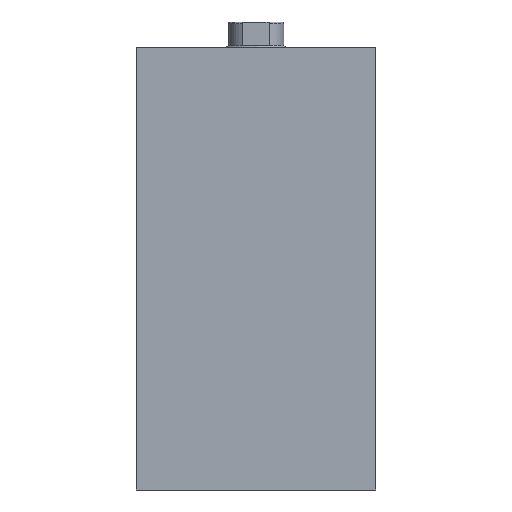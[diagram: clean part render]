
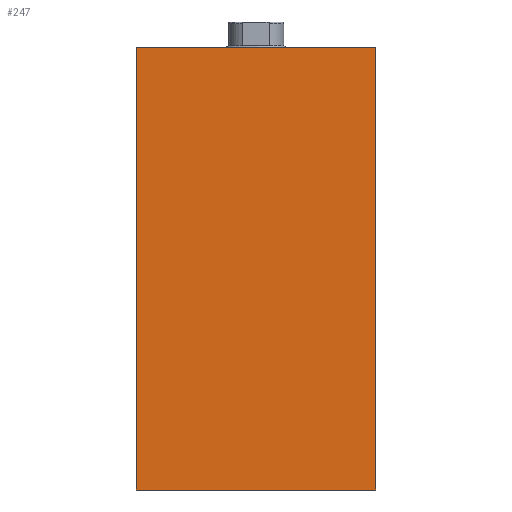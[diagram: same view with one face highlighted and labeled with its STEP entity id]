
A CAD part, left-side view. The second image highlights one B-rep face of the part: STEP entity #247.
In plain terms, the highlighted planar face has unit normal (-1, 0, 0) as drawn and (0, 0, -1) by its records, which use the part's own axes.
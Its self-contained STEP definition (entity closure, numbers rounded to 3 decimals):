
#247 = ADVANCED_FACE( '', ( #328 ), #329, .F. );
#328 = FACE_OUTER_BOUND( '', #524, .T. );
#329 = PLANE( '', #525 );
#524 = EDGE_LOOP( '', ( #739, #740, #741, #742 ) );
#525 = AXIS2_PLACEMENT_3D( '', #743, #744, #745 );
#739 = ORIENTED_EDGE( '', *, *, #1081, .T. );
#740 = ORIENTED_EDGE( '', *, *, #1097, .F. );
#741 = ORIENTED_EDGE( '', *, *, #1092, .F. );
#742 = ORIENTED_EDGE( '', *, *, #1096, .T. );
#743 = CARTESIAN_POINT( '', ( 120., -32.5, -22.5 ) );
#744 = DIRECTION( '', ( 0., 0., 1. ) );
#745 = DIRECTION( '', ( 1., 0., 0. ) );
#1081 = EDGE_CURVE( '', #1175, #1173, #1176, .T. );
#1092 = EDGE_CURVE( '', #1193, #1195, #1196, .T. );
#1096 = EDGE_CURVE( '', #1193, #1175, #1202, .T. );
#1097 = EDGE_CURVE( '', #1195, #1173, #1203, .T. );
#1173 = VERTEX_POINT( '', #1406 );
#1175 = VERTEX_POINT( '', #1409 );
#1176 = LINE( '', #1410, #1411 );
#1193 = VERTEX_POINT( '', #1600 );
#1195 = VERTEX_POINT( '', #1603 );
#1196 = LINE( '', #1604, #1605 );
#1202 = B_SPLINE_CURVE_WITH_KNOTS( '', 1, ( #1678, #1679 ), .UNSPECIFIED., .F., .F., ( 2, 2 ), ( 0., 1. ), .UNSPECIFIED. );
#1203 = B_SPLINE_CURVE_WITH_KNOTS( '', 1, ( #1680, #1681 ), .UNSPECIFIED., .F., .F., ( 2, 2 ), ( 0., 1. ), .UNSPECIFIED. );
#1406 = CARTESIAN_POINT( '', ( 0., 32.5, -22.5 ) );
#1409 = CARTESIAN_POINT( '', ( 0., -32.5, -22.5 ) );
#1410 = CARTESIAN_POINT( '', ( 0., -32.5, -22.5 ) );
#1411 = VECTOR( '', #3655, 1000. );
#1600 = CARTESIAN_POINT( '', ( 120., -32.5, -22.5 ) );
#1603 = CARTESIAN_POINT( '', ( 120., 32.5, -22.5 ) );
#1604 = CARTESIAN_POINT( '', ( 120., -32.5, -22.5 ) );
#1605 = VECTOR( '', #3659, 1000. );
#1678 = CARTESIAN_POINT( '', ( 120., -32.5, -22.5 ) );
#1679 = CARTESIAN_POINT( '', ( 0., -32.5, -22.5 ) );
#1680 = CARTESIAN_POINT( '', ( 120., 32.5, -22.5 ) );
#1681 = CARTESIAN_POINT( '', ( 0., 32.5, -22.5 ) );
#3655 = DIRECTION( '', ( 0., 1., 0. ) );
#3659 = DIRECTION( '', ( 0., 1., 0. ) );
